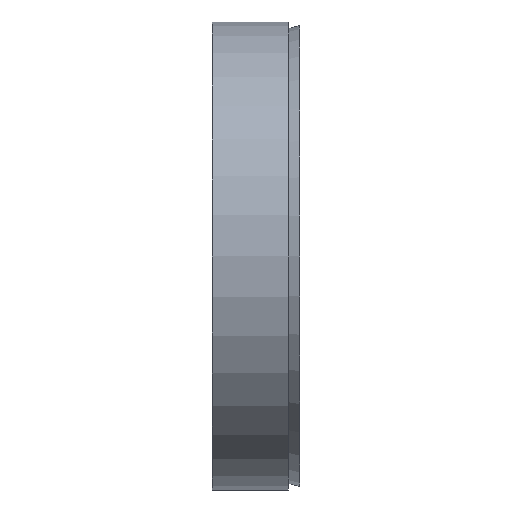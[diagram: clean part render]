
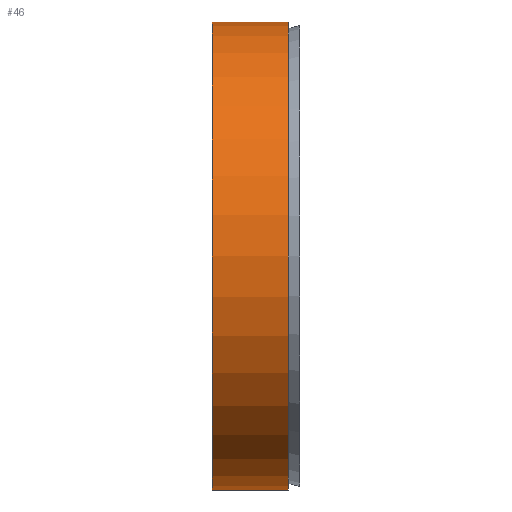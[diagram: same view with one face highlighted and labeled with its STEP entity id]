
A CAD part, left-side view. The second image highlights one B-rep face of the part: STEP entity #46.
In plain terms, the highlighted cylindrical face has radius 32 mm (diameter 64 mm), a full revolution.
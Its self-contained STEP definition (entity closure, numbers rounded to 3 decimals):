
#46 = ADVANCED_FACE( '', ( #93, #94 ), #95, .T. );
#93 = FACE_OUTER_BOUND( '', #132, .T. );
#94 = FACE_OUTER_BOUND( '', #133, .T. );
#95 = CYLINDRICAL_SURFACE( '', #134, 32. );
#132 = EDGE_LOOP( '', ( #179 ) );
#133 = EDGE_LOOP( '', ( #180 ) );
#134 = AXIS2_PLACEMENT_3D( '', #181, #182, #183 );
#179 = ORIENTED_EDGE( '', *, *, #189, .F. );
#180 = ORIENTED_EDGE( '', *, *, #198, .T. );
#181 = CARTESIAN_POINT( '', ( 0., -60., 0. ) );
#182 = DIRECTION( '', ( 0., 1., 0. ) );
#183 = DIRECTION( '', ( 0., 0., -1. ) );
#189 = EDGE_CURVE( '', #208, #208, #209, .T. );
#198 = EDGE_CURVE( '', #221, #221, #222, .T. );
#208 = VERTEX_POINT( '', #232 );
#209 = CIRCLE( '', #233, 32. );
#221 = VERTEX_POINT( '', #245 );
#222 = CIRCLE( '', #246, 32. );
#232 = CARTESIAN_POINT( '', ( 0., 1.6, -32. ) );
#233 = AXIS2_PLACEMENT_3D( '', #257, #258, #259 );
#245 = CARTESIAN_POINT( '', ( 0., 12., -32. ) );
#246 = AXIS2_PLACEMENT_3D( '', #269, #270, #271 );
#257 = CARTESIAN_POINT( '', ( 0., 1.6, 0. ) );
#258 = DIRECTION( '', ( 0., -1., 0. ) );
#259 = DIRECTION( '', ( 0., 0., -1. ) );
#269 = CARTESIAN_POINT( '', ( 0., 12., 0. ) );
#270 = DIRECTION( '', ( 0., -1., 0. ) );
#271 = DIRECTION( '', ( 0., 0., -1. ) );
